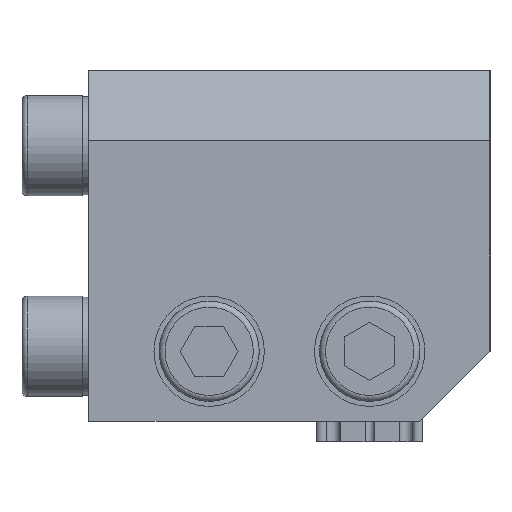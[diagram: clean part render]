
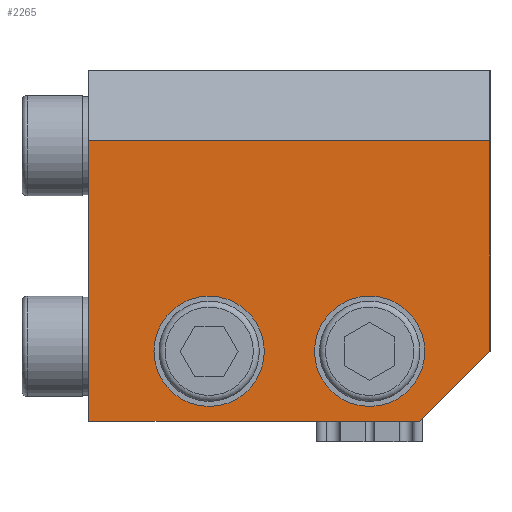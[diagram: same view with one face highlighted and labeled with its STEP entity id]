
A CAD part, left-side view. The second image highlights one B-rep face of the part: STEP entity #2265.
In plain terms, the highlighted planar face has unit normal (-1, 0, 0).
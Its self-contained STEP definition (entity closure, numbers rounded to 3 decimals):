
#25 = EDGE_LOOP ( 'NONE', ( #1502, #1089, #3257, #4058, #3138 ) ) ;
#78 = DIRECTION ( 'NONE',  ( 1., 0., 0. ) ) ;
#147 = CARTESIAN_POINT ( 'NONE',  ( -27.5, 8., -10.5 ) ) ;
#161 = ORIENTED_EDGE ( 'NONE', *, *, #588, .F. ) ;
#193 = DIRECTION ( 'NONE',  ( -1., 0., 0. ) ) ;
#230 = VECTOR ( 'NONE', #3028, 1000. ) ;
#277 = DIRECTION ( 'NONE',  ( -1., 0., 0. ) ) ;
#447 = EDGE_LOOP ( 'NONE', ( #161 ) ) ;
#475 = EDGE_CURVE ( 'NONE', #1608, #1705, #2207, .T. ) ;
#481 = VERTEX_POINT ( 'NONE', #794 ) ;
#510 = DIRECTION ( 'NONE',  ( 0., 0., 1. ) ) ;
#521 = CIRCLE ( 'NONE', #1091, 5.5 ) ;
#588 = EDGE_CURVE ( 'NONE', #4282, #4282, #521, .T. ) ;
#610 = CARTESIAN_POINT ( 'NONE',  ( -27.5, -8., -10.5 ) ) ;
#794 = CARTESIAN_POINT ( 'NONE',  ( -27.5, -20., -10.5 ) ) ;
#802 = FACE_BOUND ( 'NONE', #1599, .T. ) ;
#1089 = ORIENTED_EDGE ( 'NONE', *, *, #1449, .T. ) ;
#1091 = AXIS2_PLACEMENT_3D ( 'NONE', #610, #277, #2996 ) ;
#1103 = EDGE_CURVE ( 'NONE', #1705, #3786, #2243, .T. ) ;
#1150 = PLANE ( 'NONE',  #3045 ) ;
#1386 = DIRECTION ( 'NONE',  ( 0., -0.707, 0.707 ) ) ;
#1404 = DIRECTION ( 'NONE',  ( 0., 1., 0. ) ) ;
#1449 = EDGE_CURVE ( 'NONE', #3786, #481, #3770, .T. ) ;
#1502 = ORIENTED_EDGE ( 'NONE', *, *, #1103, .T. ) ;
#1515 = CARTESIAN_POINT ( 'NONE',  ( -27.5, -20., 17.5 ) ) ;
#1599 = EDGE_LOOP ( 'NONE', ( #2862 ) ) ;
#1608 = VERTEX_POINT ( 'NONE', #3653 ) ;
#1660 = CARTESIAN_POINT ( 'NONE',  ( -27.5, -13., -17.5 ) ) ;
#1705 = VERTEX_POINT ( 'NONE', #3594 ) ;
#1712 = VERTEX_POINT ( 'NONE', #2417 ) ;
#1885 = CIRCLE ( 'NONE', #4100, 5.5 ) ;
#1898 = VECTOR ( 'NONE', #2895, 1000. ) ;
#1912 = DIRECTION ( 'NONE',  ( 0., -1., 0. ) ) ;
#2027 = VECTOR ( 'NONE', #1404, 1000. ) ;
#2062 = EDGE_CURVE ( 'NONE', #1712, #1712, #1885, .T. ) ;
#2192 = VERTEX_POINT ( 'NONE', #2924 ) ;
#2207 = LINE ( 'NONE', #2480, #230 ) ;
#2211 = DIRECTION ( 'NONE',  ( 0., 1., 0. ) ) ;
#2243 = LINE ( 'NONE', #3844, #3616 ) ;
#2265 = ADVANCED_FACE ( 'NONE', ( #4138, #802, #3098 ), #1150, .F. ) ;
#2297 = CARTESIAN_POINT ( 'NONE',  ( -27.5, -8., -5. ) ) ;
#2417 = CARTESIAN_POINT ( 'NONE',  ( -27.5, 8., -5. ) ) ;
#2480 = CARTESIAN_POINT ( 'NONE',  ( -27.5, 20., 17.5 ) ) ;
#2862 = ORIENTED_EDGE ( 'NONE', *, *, #2062, .F. ) ;
#2895 = DIRECTION ( 'NONE',  ( 0., 0., -1. ) ) ;
#2924 = CARTESIAN_POINT ( 'NONE',  ( -27.5, -20., 10.5 ) ) ;
#2930 = EDGE_CURVE ( 'NONE', #2192, #1608, #3049, .T. ) ;
#2996 = DIRECTION ( 'NONE',  ( 0., 0., 1. ) ) ;
#3028 = DIRECTION ( 'NONE',  ( 0., 0., -1. ) ) ;
#3045 = AXIS2_PLACEMENT_3D ( 'NONE', #4160, #78, #2211 ) ;
#3049 = LINE ( 'NONE', #3093, #2027 ) ;
#3069 = EDGE_CURVE ( 'NONE', #2192, #481, #3542, .T. ) ;
#3093 = CARTESIAN_POINT ( 'NONE',  ( -27.5, 20., 10.5 ) ) ;
#3098 = FACE_OUTER_BOUND ( 'NONE', #25, .T. ) ;
#3138 = ORIENTED_EDGE ( 'NONE', *, *, #475, .T. ) ;
#3257 = ORIENTED_EDGE ( 'NONE', *, *, #3069, .F. ) ;
#3392 = VECTOR ( 'NONE', #1386, 1000. ) ;
#3436 = CARTESIAN_POINT ( 'NONE',  ( -27.5, -20., -10.5 ) ) ;
#3542 = LINE ( 'NONE', #1515, #1898 ) ;
#3594 = CARTESIAN_POINT ( 'NONE',  ( -27.5, 20., -17.5 ) ) ;
#3616 = VECTOR ( 'NONE', #1912, 1000. ) ;
#3653 = CARTESIAN_POINT ( 'NONE',  ( -27.5, 20., 10.5 ) ) ;
#3770 = LINE ( 'NONE', #3436, #3392 ) ;
#3786 = VERTEX_POINT ( 'NONE', #1660 ) ;
#3844 = CARTESIAN_POINT ( 'NONE',  ( -27.5, 20., -17.5 ) ) ;
#4058 = ORIENTED_EDGE ( 'NONE', *, *, #2930, .T. ) ;
#4100 = AXIS2_PLACEMENT_3D ( 'NONE', #147, #193, #510 ) ;
#4138 = FACE_BOUND ( 'NONE', #447, .T. ) ;
#4160 = CARTESIAN_POINT ( 'NONE',  ( -27.5, 20., 17.5 ) ) ;
#4282 = VERTEX_POINT ( 'NONE', #2297 ) ;
